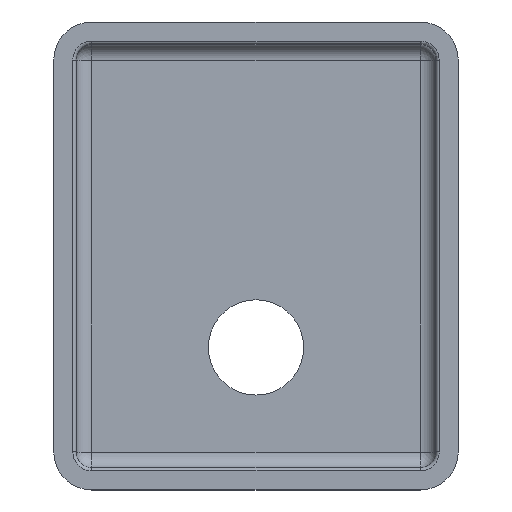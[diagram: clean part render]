
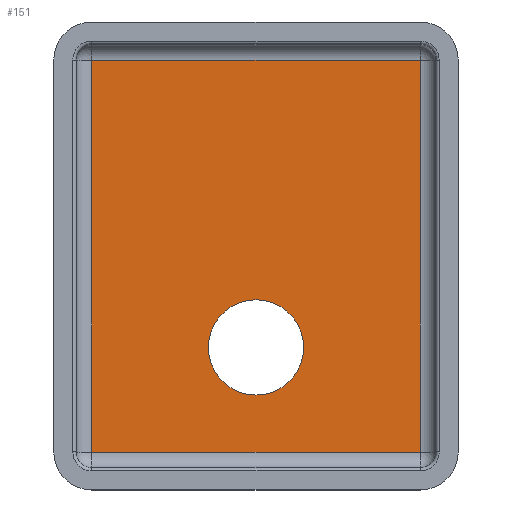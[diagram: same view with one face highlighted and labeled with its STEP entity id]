
A CAD part, top view. The second image highlights one B-rep face of the part: STEP entity #151.
In plain terms, the highlighted planar face has unit normal (0, 0, 1).
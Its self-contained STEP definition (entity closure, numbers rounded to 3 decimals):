
#69=CARTESIAN_POINT('Vertex',(-45.,-86.,-199.)) ;
#72=CARTESIAN_POINT('Axis2P3D Location',(0.,-86.,-199.)) ;
#76=CARTESIAN_POINT('Vertex',(45.,-86.,-199.)) ;
#96=CARTESIAN_POINT('Axis2P3D Location',(0.,-86.,-199.)) ;
#108=CARTESIAN_POINT('Axis2P3D Location',(170.,185.,-199.)) ;
#113=CARTESIAN_POINT('Line Origine',(155.,185.,-199.)) ;
#117=CARTESIAN_POINT('Vertex',(155.,185.,-199.)) ;
#119=CARTESIAN_POINT('Vertex',(155.,-185.,-199.)) ;
#122=CARTESIAN_POINT('Line Origine',(170.,185.,-199.)) ;
#126=CARTESIAN_POINT('Vertex',(-155.,185.,-199.)) ;
#129=CARTESIAN_POINT('Line Origine',(-155.,185.,-199.)) ;
#133=CARTESIAN_POINT('Vertex',(-155.,-185.,-199.)) ;
#136=CARTESIAN_POINT('Line Origine',(170.,-185.,-199.)) ;
#73=DIRECTION('Axis2P3D Direction',(-0.,0.,1.)) ;
#97=DIRECTION('Axis2P3D Direction',(-0.,0.,1.)) ;
#109=DIRECTION('Axis2P3D Direction',(0.,0.,-1.)) ;
#110=DIRECTION('Axis2P3D XDirection',(1.,0.,0.)) ;
#114=DIRECTION('Vector Direction',(0.,-1.,0.)) ;
#123=DIRECTION('Vector Direction',(1.,0.,0.)) ;
#130=DIRECTION('Vector Direction',(0.,-1.,0.)) ;
#137=DIRECTION('Vector Direction',(1.,0.,0.)) ;
#74=AXIS2_PLACEMENT_3D('Circle Axis2P3D',#72,#73,$) ;
#98=AXIS2_PLACEMENT_3D('Circle Axis2P3D',#96,#97,$) ;
#111=AXIS2_PLACEMENT_3D('Plane Axis2P3D',#108,#109,#110) ;
#142=ORIENTED_EDGE('',*,*,#121,.F.) ;
#143=ORIENTED_EDGE('',*,*,#128,.F.) ;
#144=ORIENTED_EDGE('',*,*,#135,.F.) ;
#145=ORIENTED_EDGE('',*,*,#140,.F.) ;
#148=ORIENTED_EDGE('',*,*,#78,.F.) ;
#149=ORIENTED_EDGE('',*,*,#100,.F.) ;
#150=FACE_BOUND('',#147,.T.) ;
#115=VECTOR('Line Direction',#114,1.) ;
#124=VECTOR('Line Direction',#123,1.) ;
#131=VECTOR('Line Direction',#130,1.) ;
#138=VECTOR('Line Direction',#137,1.) ;
#151=ADVANCED_FACE('Vasca',(#146,#150),#112,.F.) ;
#75=CIRCLE('generated circle',#74,45.) ;
#99=CIRCLE('generated circle',#98,45.) ;
#78=EDGE_CURVE('',#70,#77,#75,.T.) ;
#100=EDGE_CURVE('',#77,#70,#99,.T.) ;
#121=EDGE_CURVE('',#118,#120,#116,.T.) ;
#128=EDGE_CURVE('',#127,#118,#125,.T.) ;
#135=EDGE_CURVE('',#134,#127,#132,.F.) ;
#140=EDGE_CURVE('',#120,#134,#139,.F.) ;
#141=EDGE_LOOP('',(#142,#143,#144,#145)) ;
#147=EDGE_LOOP('',(#148,#149)) ;
#146=FACE_OUTER_BOUND('',#141,.T.) ;
#116=LINE('Line',#113,#115) ;
#125=LINE('Line',#122,#124) ;
#132=LINE('Line',#129,#131) ;
#139=LINE('Line',#136,#138) ;
#112=PLANE('',#111) ;
#70=VERTEX_POINT('',#69) ;
#77=VERTEX_POINT('',#76) ;
#118=VERTEX_POINT('',#117) ;
#120=VERTEX_POINT('',#119) ;
#127=VERTEX_POINT('',#126) ;
#134=VERTEX_POINT('',#133) ;
